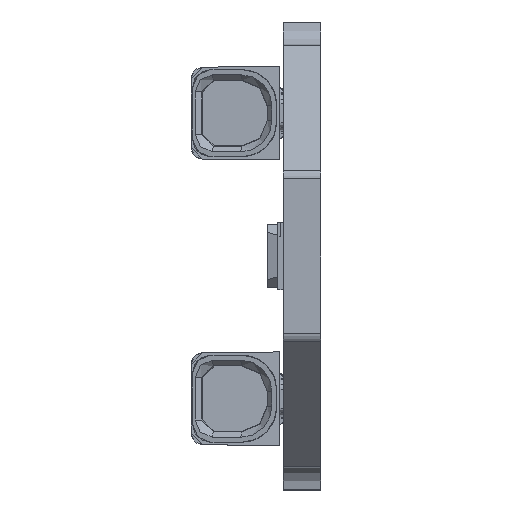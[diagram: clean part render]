
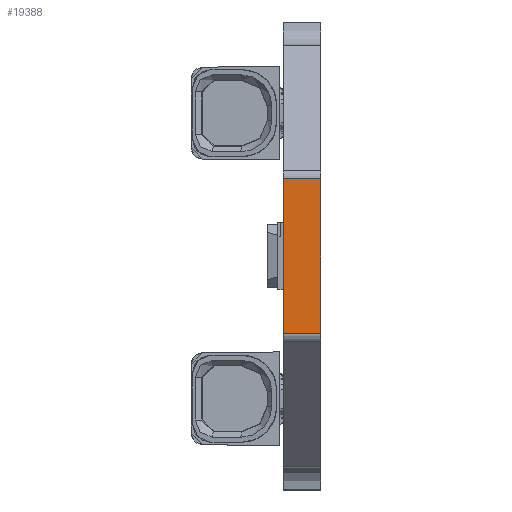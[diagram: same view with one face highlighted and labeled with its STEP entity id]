
A CAD part, left-side view. The second image highlights one B-rep face of the part: STEP entity #19388.
In plain terms, the highlighted planar face has unit normal (-1, 0, 0).
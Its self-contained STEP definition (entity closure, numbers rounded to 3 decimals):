
#6568 = VECTOR ( 'NONE', #20246, 1000. ) ;
#9639 = VERTEX_POINT ( 'NONE', #41549 ) ;
#17004 = CARTESIAN_POINT ( 'NONE',  ( 0., 13.293, 0. ) ) ;
#19308 = AXIS2_PLACEMENT_3D ( 'NONE', #108439, #51752, #117951 ) ;
#19388 = ADVANCED_FACE ( 'NONE', ( #77091 ), #70395, .F. ) ;
#20246 = DIRECTION ( 'NONE',  ( 0., 0., -1. ) ) ;
#20560 = EDGE_CURVE ( 'NONE', #116083, #49777, #88147, .T. ) ;
#21658 = ORIENTED_EDGE ( 'NONE', *, *, #50136, .F. ) ;
#21809 = VERTEX_POINT ( 'NONE', #62607 ) ;
#22086 = EDGE_CURVE ( 'NONE', #21809, #116083, #59844, .T. ) ;
#32979 = VECTOR ( 'NONE', #113020, 1000. ) ;
#37275 = CARTESIAN_POINT ( 'NONE',  ( 0., 13.293, 1.6 ) ) ;
#41549 = CARTESIAN_POINT ( 'NONE',  ( 0., 6.707, 1.6 ) ) ;
#49777 = VERTEX_POINT ( 'NONE', #71791 ) ;
#50136 = EDGE_CURVE ( 'NONE', #9639, #49777, #72087, .T. ) ;
#50542 = CARTESIAN_POINT ( 'NONE',  ( 0., 6.707, 1.6 ) ) ;
#51752 = DIRECTION ( 'NONE',  ( 1., 0., 0. ) ) ;
#58240 = LINE ( 'NONE', #37275, #32979 ) ;
#59844 = LINE ( 'NONE', #86076, #6568 ) ;
#62607 = CARTESIAN_POINT ( 'NONE',  ( 0., 13.293, 1.6 ) ) ;
#65867 = EDGE_LOOP ( 'NONE', ( #99738, #21658, #98094, #117618 ) ) ;
#70395 = PLANE ( 'NONE',  #19308 ) ;
#71791 = CARTESIAN_POINT ( 'NONE',  ( 0., 6.707, 0. ) ) ;
#72087 = LINE ( 'NONE', #50542, #97238 ) ;
#77091 = FACE_OUTER_BOUND ( 'NONE', #65867, .T. ) ;
#82239 = VECTOR ( 'NONE', #111055, 1000. ) ;
#82528 = CARTESIAN_POINT ( 'NONE',  ( 0., 13.293, 0. ) ) ;
#86076 = CARTESIAN_POINT ( 'NONE',  ( 0., 13.293, 1.6 ) ) ;
#88147 = LINE ( 'NONE', #82528, #82239 ) ;
#97238 = VECTOR ( 'NONE', #107268, 1000. ) ;
#98094 = ORIENTED_EDGE ( 'NONE', *, *, #117648, .F. ) ;
#99738 = ORIENTED_EDGE ( 'NONE', *, *, #20560, .T. ) ;
#107268 = DIRECTION ( 'NONE',  ( 0., 0., -1. ) ) ;
#108439 = CARTESIAN_POINT ( 'NONE',  ( 0., 13.293, 1.6 ) ) ;
#111055 = DIRECTION ( 'NONE',  ( 0., -1., 0. ) ) ;
#113020 = DIRECTION ( 'NONE',  ( 0., -1., 0. ) ) ;
#116083 = VERTEX_POINT ( 'NONE', #17004 ) ;
#117618 = ORIENTED_EDGE ( 'NONE', *, *, #22086, .T. ) ;
#117648 = EDGE_CURVE ( 'NONE', #21809, #9639, #58240, .T. ) ;
#117951 = DIRECTION ( 'NONE',  ( 0., 0., -1. ) ) ;
